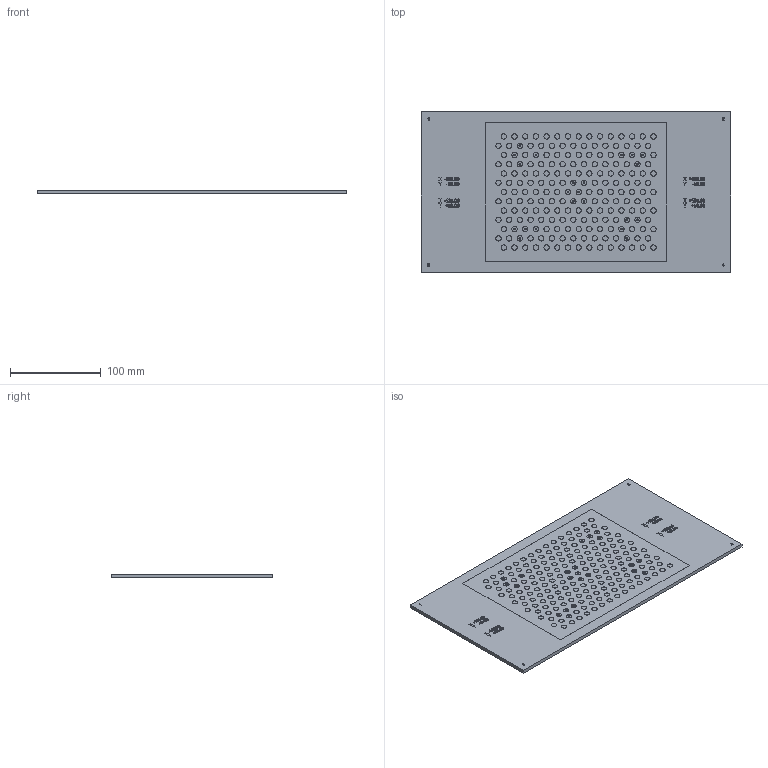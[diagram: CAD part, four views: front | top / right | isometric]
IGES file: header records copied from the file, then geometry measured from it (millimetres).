
Global section: file name: 153-13575_ZCP 200-13x15-X01; native system: Autodesk Inventor 2018; preprocessor: unknown; author: ss; date: 20190326.105338; units: millimetre
Bounding box: 340 x 176 x 4.05 mm (x, y, z)
Volume: 240623.9 mm3; surface area: 124080.3 mm2
Topology: 1 solids, 1 shells, 1236 faces, 2837 edges, 1910 vertices
Faces by surface type: bspline 1236
